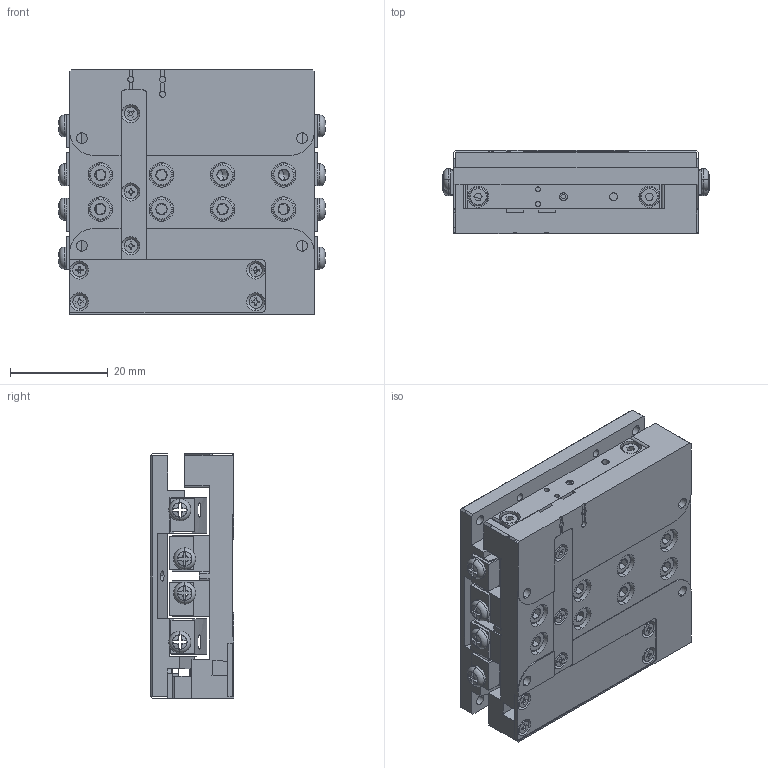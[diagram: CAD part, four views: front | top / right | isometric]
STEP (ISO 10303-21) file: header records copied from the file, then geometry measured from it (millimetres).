
FILE_DESCRIPTION (( 'STEP AP214' ), '1' );
FILE_NAME ('NH5010-002-00 ぇ啊怢60.5.STEP', '2025-05-07T02:38:54', ( '' ), ( '' ), 'SwSTEP 2.0', 'SolidWorks 2023', '' );
FILE_SCHEMA (( 'AUTOMOTIVE_DESIGN' ));
Length unit declared in the file: millimetre
Products named in the file (1): NH5010-002-00 偏摆台60.5
Bounding box: 54.6 x 17 x 50 mm (x, y, z)
Surface area: 18154.5 mm2 (no closed solid volume)
Topology: 0 solids, 49 shells, 841 faces, 3041 edges, 2090 vertices
Faces by surface type: plane 494, cylinder 205, cone 70, torus 56, sphere 16
Entity records: 43264 total; most frequent: CARTESIAN_POINT 8738, DIRECTION 5256, ORIENTED_EDGE 4706, EDGE_CURVE 3031, VERTEX_POINT 2090, AXIS2_PLACEMENT_3D 1790, VECTOR 1676, LINE 1676
